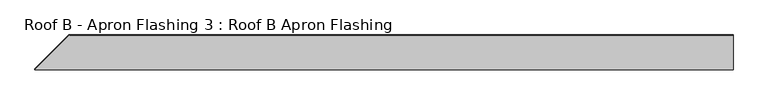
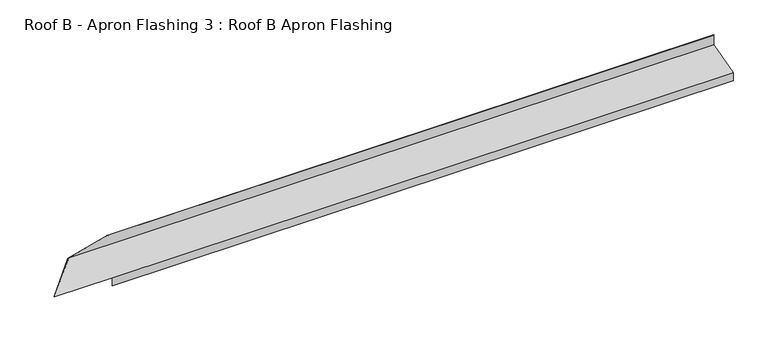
"""IFC4 building model written with IfcOpenShell, lengths in millimetres: proxy geometry, Roof B - Apron Flashing 3 : Roof B Apron Flashing."""

from ifc_helpers import new_model, si_unit, origin, place, context, project, spatial, faceted_brep, source, transform, mapped, element, save


def roof_b_apron_flashing_3_roof_b_apron_flashing_e510a248(model_context):
    return source(origin(), model_context, "Body", "Brep", [
        faceted_brep([(-161.0041697, -13198.9473192, 4055.6588838), (-161.0041697, -12999.5743373, 4109.0807133), (-161.0041697, -12999.5743373, 4171.1338746), (-161.0041697, -13000.5743373, 4171.1338746), (-161.0041697, -13000.5743373, 4109.8480403), (-161.0041697, -13199.9473192, 4056.4262108), (-161.0041697, -13199.9473192, 4006.4262108), (-161.0041697, -13198.9473192, 4006.4262108), (-3835.6492348, -13198.9473192, 4055.6588838), (-3832.0852204, -13195.3833049, 4056.6138586), (-4177.8823333, -13195.3833049, 4056.6138586), (-3982.0733657, -12999.5743373, 4109.0807133), (-3750.487815, -12999.5743373, 4171.1338746), (-3750.487815, -13000.5743373, 4171.1338746), (-3979.2096624, -13000.5743373, 4109.8480403), (-4177.8823333, -13199.2470082, 4056.6138586), (-3835.9489237, -13199.2470082, 4056.6138586), (-3836.6492348, -13199.9473192, 4056.4262108), (-3836.6492348, -13199.9473192, 4006.4262108), (-3835.6492348, -13198.9473192, 4006.4262108)], [[[0, 1, 2, 3, 4, 5, 6, 7]], [[1, 0, 8, 9, 10, 11]], [[2, 1, 11, 12]], [[3, 2, 12, 13]], [[4, 3, 13, 14]], [[5, 4, 14, 15, 16, 17]], [[6, 5, 17, 18]], [[7, 6, 18, 19]], [[0, 7, 19, 8]], [[9, 16, 15, 10]], [[16, 9, 8, 19, 18, 17]], [[11, 10, 15, 14, 13, 12]]]),
    ])


if __name__ == "__main__":
    model = new_model("IFC4")
    model_context = context("Model", 3, world=origin())
    ifc_project = project(units=[si_unit("LENGTHUNIT", "METRE", prefix="MILLI")], contexts=[model_context])
    site = spatial("IfcSite", under=ifc_project)
    building = spatial("IfcBuilding", under=site)
    placement = place(None, origin())
    roof_b_apron_flashing_3_roof_b_apron_flashing_shape = roof_b_apron_flashing_3_roof_b_apron_flashing_e510a248(model_context)
    element("IfcBuildingElementProxy", 1, Name="Roof B - Apron Flashing 3 : Roof B Apron Flashing", ObjectType="Roof B - Apron Flashing 3 : Roof B Apron Flashing", at=placement, inside=building, context=model_context, shape_type="MappedRepresentation", body=[
        mapped(roof_b_apron_flashing_3_roof_b_apron_flashing_shape, transform((0.0, 0.0, 0.0), x_axis=(1.0, 0.0, 0.0), y_axis=(0.0, 1.0, 0.0), z_axis=(0.0, 0.0, 1.0))),
    ])
    save(model, "model.ifc")
